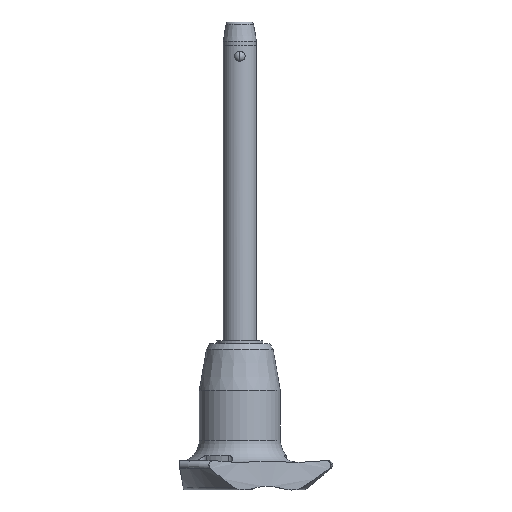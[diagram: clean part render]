
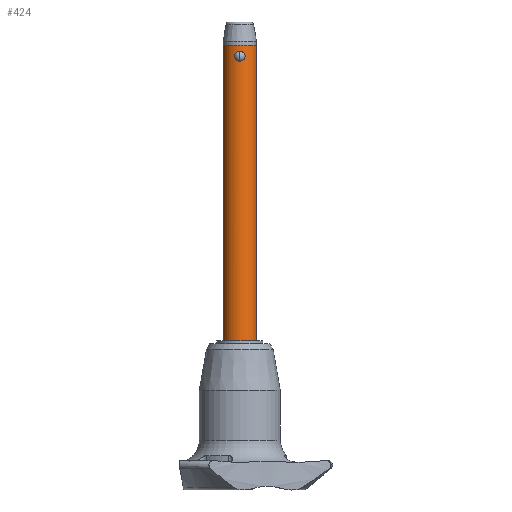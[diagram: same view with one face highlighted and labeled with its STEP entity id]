
A CAD part, front view. The second image highlights one B-rep face of the part: STEP entity #424.
In plain terms, the highlighted cylindrical face has radius 3 mm (diameter 6 mm), a partial arc.
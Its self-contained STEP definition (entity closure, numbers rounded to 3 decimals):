
#52 = EDGE_LOOP ( 'NONE', ( #2401, #697 ) ) ;
#100 = CARTESIAN_POINT ( 'NONE',  ( -3., 0., -50. ) ) ;
#129 = VERTEX_POINT ( 'NONE', #2590 ) ;
#170 = CARTESIAN_POINT ( 'NONE',  ( 0., -3., 1.732 ) ) ;
#209 = CARTESIAN_POINT ( 'NONE',  ( -0.238, -2.993, 0.021 ) ) ;
#232 = CARTESIAN_POINT ( 'NONE',  ( 0.461, -2.966, 1.63 ) ) ;
#256 = CARTESIAN_POINT ( 'NONE',  ( 0.91, -2.859, 0.626 ) ) ;
#262 = VERTEX_POINT ( 'NONE', #944 ) ;
#286 = CARTESIAN_POINT ( 'NONE',  ( 0.563, -2.948, 0.162 ) ) ;
#368 = CARTESIAN_POINT ( 'NONE',  ( -0.812, -2.889, 0.414 ) ) ;
#369 = VERTEX_POINT ( 'NONE', #377 ) ;
#377 = CARTESIAN_POINT ( 'NONE',  ( 0., -3., 1.732 ) ) ;
#389 = FACE_BOUND ( 'NONE', #52, .T. ) ;
#407 = CARTESIAN_POINT ( 'NONE',  ( -0.911, -2.859, 0.63 ) ) ;
#418 = CARTESIAN_POINT ( 'NONE',  ( -0.563, -2.948, 1.57 ) ) ;
#424 = ADVANCED_FACE ( 'NONE', ( #2071, #389 ), #820, .T. ) ;
#438 = DIRECTION ( 'NONE',  ( 0., 0., 1. ) ) ;
#528 = CARTESIAN_POINT ( 'NONE',  ( 0., -3., 0. ) ) ;
#598 = DIRECTION ( 'NONE',  ( 0., 0., 1. ) ) ;
#613 = CARTESIAN_POINT ( 'NONE',  ( -0.937, -2.85, 0.986 ) ) ;
#621 = AXIS2_PLACEMENT_3D ( 'NONE', #777, #598, #1447 ) ;
#697 = ORIENTED_EDGE ( 'NONE', *, *, #2282, .F. ) ;
#775 = LINE ( 'NONE', #100, #1029 ) ;
#777 = CARTESIAN_POINT ( 'NONE',  ( 0., 0., 2.8 ) ) ;
#793 = DIRECTION ( 'NONE',  ( 1., 0., 0. ) ) ;
#802 = DIRECTION ( 'NONE',  ( 1., 0., 0. ) ) ;
#820 = CYLINDRICAL_SURFACE ( 'NONE', #2518, 3. ) ;
#846 = EDGE_CURVE ( 'NONE', #129, #262, #1927, .T. ) ;
#849 = CARTESIAN_POINT ( 'NONE',  ( -0.238, -2.993, 1.712 ) ) ;
#872 = CARTESIAN_POINT ( 'NONE',  ( 0.118, -3., 0. ) ) ;
#915 = CARTESIAN_POINT ( 'NONE',  ( 0.738, -2.909, 0.317 ) ) ;
#927 = CARTESIAN_POINT ( 'NONE',  ( 0.911, -2.859, 1.103 ) ) ;
#944 = CARTESIAN_POINT ( 'NONE',  ( 3., 0., 2.8 ) ) ;
#970 = DIRECTION ( 'NONE',  ( 0., 0., 1. ) ) ;
#1014 = CARTESIAN_POINT ( 'NONE',  ( 0., -3., 0. ) ) ;
#1028 = CARTESIAN_POINT ( 'NONE',  ( -0.811, -2.889, 1.319 ) ) ;
#1029 = VECTOR ( 'NONE', #970, 1000. ) ;
#1055 = CARTESIAN_POINT ( 'NONE',  ( -0.739, -2.909, 1.414 ) ) ;
#1089 = CARTESIAN_POINT ( 'NONE',  ( 0., -3., 1.732 ) ) ;
#1097 = EDGE_CURVE ( 'NONE', #369, #2385, #2205, .T. ) ;
#1098 = EDGE_CURVE ( 'NONE', #1817, #1129, #1525, .T. ) ;
#1115 = CARTESIAN_POINT ( 'NONE',  ( 0.812, -2.888, 1.317 ) ) ;
#1129 = VERTEX_POINT ( 'NONE', #2319 ) ;
#1251 = VECTOR ( 'NONE', #438, 1000. ) ;
#1278 = ORIENTED_EDGE ( 'NONE', *, *, #846, .F. ) ;
#1296 = CARTESIAN_POINT ( 'NONE',  ( 0.459, -2.967, 0.101 ) ) ;
#1306 = EDGE_CURVE ( 'NONE', #1129, #129, #775, .T. ) ;
#1324 = CARTESIAN_POINT ( 'NONE',  ( 0.811, -2.889, 0.412 ) ) ;
#1342 = LINE ( 'NONE', #2600, #1251 ) ;
#1358 = CARTESIAN_POINT ( 'NONE',  ( 0., -3., 0. ) ) ;
#1434 = CARTESIAN_POINT ( 'NONE',  ( 0., 0., -50. ) ) ;
#1437 = CARTESIAN_POINT ( 'NONE',  ( -0.91, -2.859, 1.105 ) ) ;
#1447 = DIRECTION ( 'NONE',  ( 1., 0., 0. ) ) ;
#1525 = CIRCLE ( 'NONE', #2428, 3. ) ;
#1620 = CARTESIAN_POINT ( 'NONE',  ( 3., 0., -50. ) ) ;
#1643 = ORIENTED_EDGE ( 'NONE', *, *, #1306, .F. ) ;
#1699 = CARTESIAN_POINT ( 'NONE',  ( -0.74, -2.909, 0.318 ) ) ;
#1722 = CARTESIAN_POINT ( 'NONE',  ( 0.238, -2.993, 0.021 ) ) ;
#1804 = ORIENTED_EDGE ( 'NONE', *, *, #2219, .T. ) ;
#1817 = VERTEX_POINT ( 'NONE', #1620 ) ;
#1868 = CARTESIAN_POINT ( 'NONE',  ( -0.12, -3., 1.732 ) ) ;
#1909 = CARTESIAN_POINT ( 'NONE',  ( -0.461, -2.967, 1.63 ) ) ;
#1927 = CIRCLE ( 'NONE', #621, 3. ) ;
#1933 = CARTESIAN_POINT ( 'NONE',  ( 0.74, -2.909, 1.414 ) ) ;
#1944 = ORIENTED_EDGE ( 'NONE', *, *, #1098, .F. ) ;
#1952 = B_SPLINE_CURVE_WITH_KNOTS ( 'NONE', 3,
 ( #1358, #872, #1722, #1296, #286, #915, #1324, #256, #2156, #2384, #927, #1115, #1933, #2582, #232, #2169, #2413, #1089 ),
 .UNSPECIFIED., .F., .F.,
 ( 4, 2, 2, 2, 2, 2, 2, 2, 4 ),
 ( 0.003, 0.003, 0.004, 0.004, 0.004, 0.005, 0.005, 0.005, 0.006 ),
 .UNSPECIFIED. ) ;
#2071 = FACE_OUTER_BOUND ( 'NONE', #2569, .T. ) ;
#2135 = CARTESIAN_POINT ( 'NONE',  ( -0.46, -2.967, 0.101 ) ) ;
#2156 = CARTESIAN_POINT ( 'NONE',  ( 0.937, -2.85, 0.744 ) ) ;
#2169 = CARTESIAN_POINT ( 'NONE',  ( 0.238, -2.993, 1.712 ) ) ;
#2205 = B_SPLINE_CURVE_WITH_KNOTS ( 'NONE', 3,
 ( #170, #1868, #849, #1909, #418, #1055, #1028, #1437, #613, #2737, #407, #368, #1699, #2752, #2135, #209, #2725, #1014 ),
 .UNSPECIFIED., .F., .F.,
 ( 4, 2, 2, 2, 2, 2, 2, 2, 4 ),
 ( 0., 0., 0.001, 0.001, 0.001, 0.002, 0.002, 0.002, 0.003 ),
 .UNSPECIFIED. ) ;
#2219 = EDGE_CURVE ( 'NONE', #1817, #262, #1342, .T. ) ;
#2282 = EDGE_CURVE ( 'NONE', #2385, #369, #1952, .T. ) ;
#2319 = CARTESIAN_POINT ( 'NONE',  ( -3., 0., -50. ) ) ;
#2384 = CARTESIAN_POINT ( 'NONE',  ( 0.937, -2.85, 0.985 ) ) ;
#2385 = VERTEX_POINT ( 'NONE', #528 ) ;
#2401 = ORIENTED_EDGE ( 'NONE', *, *, #1097, .F. ) ;
#2413 = CARTESIAN_POINT ( 'NONE',  ( 0.12, -3., 1.732 ) ) ;
#2428 = AXIS2_PLACEMENT_3D ( 'NONE', #2526, #2510, #793 ) ;
#2510 = DIRECTION ( 'NONE',  ( 0., 0., -1. ) ) ;
#2518 = AXIS2_PLACEMENT_3D ( 'NONE', #1434, #2721, #802 ) ;
#2526 = CARTESIAN_POINT ( 'NONE',  ( 0., 0., -50. ) ) ;
#2569 = EDGE_LOOP ( 'NONE', ( #1643, #1944, #1804, #1278 ) ) ;
#2582 = CARTESIAN_POINT ( 'NONE',  ( 0.564, -2.948, 1.57 ) ) ;
#2590 = CARTESIAN_POINT ( 'NONE',  ( -3., 0., 2.8 ) ) ;
#2600 = CARTESIAN_POINT ( 'NONE',  ( 3., 0., -50. ) ) ;
#2721 = DIRECTION ( 'NONE',  ( 0., 0., 1. ) ) ;
#2725 = CARTESIAN_POINT ( 'NONE',  ( -0.118, -3., 0. ) ) ;
#2737 = CARTESIAN_POINT ( 'NONE',  ( -0.937, -2.85, 0.749 ) ) ;
#2752 = CARTESIAN_POINT ( 'NONE',  ( -0.564, -2.948, 0.162 ) ) ;
